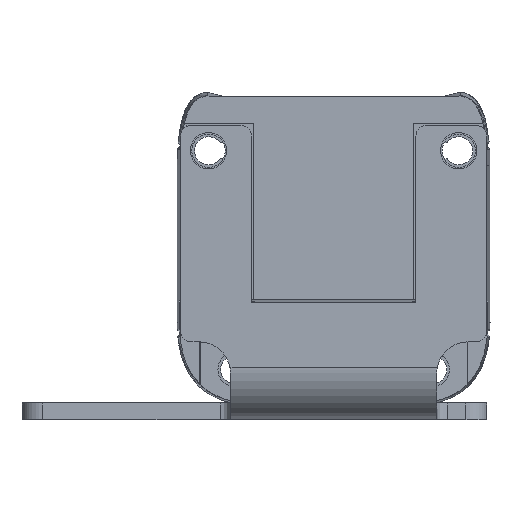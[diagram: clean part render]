
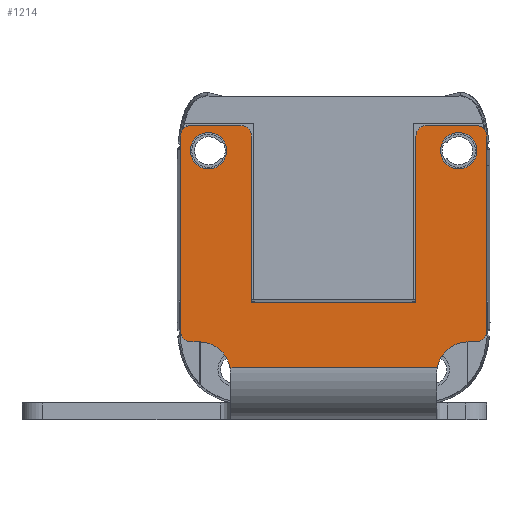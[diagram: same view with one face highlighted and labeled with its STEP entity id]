
A CAD part, front view. The second image highlights one B-rep face of the part: STEP entity #1214.
In plain terms, the highlighted planar face has unit normal (0, -1, 0).
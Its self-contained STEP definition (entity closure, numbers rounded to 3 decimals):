
#1214=ADVANCED_FACE('',(#1904,#1905,#1906),#1492,.T.);
#1492=PLANE('',#9447);
#1797=CIRCLE('',#9437,3.);
#1798=CIRCLE('',#9438,1.);
#1799=CIRCLE('',#9439,1.);
#1800=CIRCLE('',#9440,1.);
#1801=CIRCLE('',#9441,1.);
#1802=CIRCLE('',#9442,1.);
#1803=CIRCLE('',#9443,1.);
#1804=CIRCLE('',#9444,3.);
#1805=CIRCLE('',#9445,1.75);
#1806=CIRCLE('',#9446,1.75);
#1904=FACE_BOUND('',#2370,.T.);
#1905=FACE_BOUND('',#2371,.T.);
#1906=FACE_BOUND('',#2372,.T.);
#2370=EDGE_LOOP('',(#4747,#4748,#4749,#4750,#4751,#4752,#4753,#4754,#4755,
#4756,#4757,#4758,#4759,#4760,#4761,#4762,#4763,#4764));
#2371=EDGE_LOOP('',(#4765));
#2372=EDGE_LOOP('',(#4766));
#4747=ORIENTED_EDGE('',*,*,#6984,.T.);
#4748=ORIENTED_EDGE('',*,*,#6985,.F.);
#4749=ORIENTED_EDGE('',*,*,#6986,.T.);
#4750=ORIENTED_EDGE('',*,*,#6987,.T.);
#4751=ORIENTED_EDGE('',*,*,#6988,.T.);
#4752=ORIENTED_EDGE('',*,*,#6989,.T.);
#4753=ORIENTED_EDGE('',*,*,#6990,.T.);
#4754=ORIENTED_EDGE('',*,*,#6991,.F.);
#4755=ORIENTED_EDGE('',*,*,#6992,.F.);
#4756=ORIENTED_EDGE('',*,*,#6993,.T.);
#4757=ORIENTED_EDGE('',*,*,#6994,.T.);
#4758=ORIENTED_EDGE('',*,*,#6995,.F.);
#4759=ORIENTED_EDGE('',*,*,#6996,.T.);
#4760=ORIENTED_EDGE('',*,*,#6997,.F.);
#4761=ORIENTED_EDGE('',*,*,#6998,.T.);
#4762=ORIENTED_EDGE('',*,*,#6999,.T.);
#4763=ORIENTED_EDGE('',*,*,#7000,.T.);
#4764=ORIENTED_EDGE('',*,*,#7001,.T.);
#4765=ORIENTED_EDGE('',*,*,#7002,.F.);
#4766=ORIENTED_EDGE('',*,*,#7003,.T.);
#5758=VERTEX_POINT('',#15421);
#5759=VERTEX_POINT('',#15422);
#5760=VERTEX_POINT('',#15424);
#5761=VERTEX_POINT('',#15426);
#5762=VERTEX_POINT('',#15428);
#5763=VERTEX_POINT('',#15430);
#5764=VERTEX_POINT('',#15432);
#5765=VERTEX_POINT('',#15434);
#5766=VERTEX_POINT('',#15436);
#5767=VERTEX_POINT('',#15438);
#5768=VERTEX_POINT('',#15440);
#5769=VERTEX_POINT('',#15442);
#5770=VERTEX_POINT('',#15444);
#5771=VERTEX_POINT('',#15446);
#5772=VERTEX_POINT('',#15448);
#5773=VERTEX_POINT('',#15450);
#5774=VERTEX_POINT('',#15452);
#5775=VERTEX_POINT('',#15454);
#5776=VERTEX_POINT('',#15457);
#5777=VERTEX_POINT('',#15459);
#6984=EDGE_CURVE('',#5758,#5759,#1797,.T.);
#6985=EDGE_CURVE('',#5760,#5759,#7863,.T.);
#6986=EDGE_CURVE('',#5760,#5761,#1798,.T.);
#6987=EDGE_CURVE('',#5761,#5762,#7864,.T.);
#6988=EDGE_CURVE('',#5762,#5763,#1799,.T.);
#6989=EDGE_CURVE('',#5763,#5764,#7865,.T.);
#6990=EDGE_CURVE('',#5764,#5765,#1800,.T.);
#6991=EDGE_CURVE('',#5766,#5765,#7866,.T.);
#6992=EDGE_CURVE('',#5767,#5766,#7867,.T.);
#6993=EDGE_CURVE('',#5767,#5768,#7868,.T.);
#6994=EDGE_CURVE('',#5768,#5769,#1801,.T.);
#6995=EDGE_CURVE('',#5770,#5769,#7869,.T.);
#6996=EDGE_CURVE('',#5770,#5771,#1802,.T.);
#6997=EDGE_CURVE('',#5772,#5771,#7870,.T.);
#6998=EDGE_CURVE('',#5772,#5773,#1803,.T.);
#6999=EDGE_CURVE('',#5773,#5774,#7871,.T.);
#7000=EDGE_CURVE('',#5774,#5775,#1804,.T.);
#7001=EDGE_CURVE('',#5775,#5758,#7872,.T.);
#7002=EDGE_CURVE('',#5776,#5776,#1805,.T.);
#7003=EDGE_CURVE('',#5777,#5777,#1806,.T.);
#7863=LINE('',#15423,#8719);
#7864=LINE('',#15427,#8720);
#7865=LINE('',#15431,#8721);
#7866=LINE('',#15435,#8722);
#7867=LINE('',#15437,#8723);
#7868=LINE('',#15439,#8724);
#7869=LINE('',#15443,#8725);
#7870=LINE('',#15447,#8726);
#7871=LINE('',#15451,#8727);
#7872=LINE('',#15455,#8728);
#8719=VECTOR('',#11638,1.);
#8720=VECTOR('',#11641,1.);
#8721=VECTOR('',#11644,1.);
#8722=VECTOR('',#11647,1.);
#8723=VECTOR('',#11648,1.);
#8724=VECTOR('',#11649,1.);
#8725=VECTOR('',#11652,1.);
#8726=VECTOR('',#11655,1.);
#8727=VECTOR('',#11658,1.);
#8728=VECTOR('',#11661,1.);
#9437=AXIS2_PLACEMENT_3D('',#15420,#11636,#11637);
#9438=AXIS2_PLACEMENT_3D('',#15425,#11639,#11640);
#9439=AXIS2_PLACEMENT_3D('',#15429,#11642,#11643);
#9440=AXIS2_PLACEMENT_3D('',#15433,#11645,#11646);
#9441=AXIS2_PLACEMENT_3D('',#15441,#11650,#11651);
#9442=AXIS2_PLACEMENT_3D('',#15445,#11653,#11654);
#9443=AXIS2_PLACEMENT_3D('',#15449,#11656,#11657);
#9444=AXIS2_PLACEMENT_3D('',#15453,#11659,#11660);
#9445=AXIS2_PLACEMENT_3D('',#15456,#11662,#11663);
#9446=AXIS2_PLACEMENT_3D('',#15458,#11664,#11665);
#9447=AXIS2_PLACEMENT_3D('',#15460,#11666,#11667);
#11636=DIRECTION('',(0.,1.,0.));
#11637=DIRECTION('',(0.,0.,1.));
#11638=DIRECTION('',(-1.,0.,0.));
#11639=DIRECTION('',(0.,-1.,0.));
#11640=DIRECTION('',(0.,0.,1.));
#11641=DIRECTION('',(0.,0.,1.));
#11642=DIRECTION('',(0.,-1.,0.));
#11643=DIRECTION('',(0.,0.,-1.));
#11644=DIRECTION('',(-1.,0.,0.));
#11645=DIRECTION('',(0.,-1.,0.));
#11646=DIRECTION('',(0.,0.,-1.));
#11647=DIRECTION('',(0.,0.,1.));
#11648=DIRECTION('',(1.,0.,0.));
#11649=DIRECTION('',(0.,0.,1.));
#11650=DIRECTION('',(0.,-1.,0.));
#11651=DIRECTION('',(0.,0.,1.));
#11652=DIRECTION('',(1.,0.,0.));
#11653=DIRECTION('',(0.,-1.,0.));
#11654=DIRECTION('',(0.,0.,1.));
#11655=DIRECTION('',(0.,0.,1.));
#11656=DIRECTION('',(0.,-1.,0.));
#11657=DIRECTION('',(0.,0.,1.));
#11658=DIRECTION('',(1.,0.,0.));
#11659=DIRECTION('',(0.,1.,0.));
#11660=DIRECTION('',(0.,0.,1.));
#11661=DIRECTION('',(1.,0.,0.));
#11662=DIRECTION('',(0.,-1.,0.));
#11663=DIRECTION('',(0.,0.,1.));
#11664=DIRECTION('',(0.,1.,0.));
#11665=DIRECTION('',(0.,0.,-1.));
#11666=DIRECTION('',(0.,-1.,0.));
#11667=DIRECTION('',(-1.,0.,0.));
#15420=CARTESIAN_POINT('',(12.89,65.8,-139.533));
#15421=CARTESIAN_POINT('',(9.939,65.8,-138.994));
#15422=CARTESIAN_POINT('',(12.89,65.8,-136.533));
#15423=CARTESIAN_POINT('',(-7.89,65.8,-136.533));
#15424=CARTESIAN_POINT('',(13.69,65.8,-136.533));
#15425=CARTESIAN_POINT('',(13.69,65.8,-135.533));
#15426=CARTESIAN_POINT('',(14.69,65.8,-135.533));
#15427=CARTESIAN_POINT('',(14.69,65.8,-115.6));
#15428=CARTESIAN_POINT('',(14.69,65.8,-116.8));
#15429=CARTESIAN_POINT('',(13.69,65.8,-116.8));
#15430=CARTESIAN_POINT('',(13.69,65.8,-115.8));
#15431=CARTESIAN_POINT('',(7.89,65.8,-115.8));
#15432=CARTESIAN_POINT('',(8.89,65.8,-115.8));
#15433=CARTESIAN_POINT('',(8.89,65.8,-116.8));
#15434=CARTESIAN_POINT('',(7.89,65.8,-116.8));
#15435=CARTESIAN_POINT('',(7.89,65.8,-115.6));
#15436=CARTESIAN_POINT('',(7.89,65.8,-132.733));
#15437=CARTESIAN_POINT('',(-9.89,65.8,-132.733));
#15438=CARTESIAN_POINT('',(-7.89,65.8,-132.733));
#15439=CARTESIAN_POINT('',(-7.89,65.8,-115.6));
#15440=CARTESIAN_POINT('',(-7.89,65.8,-116.8));
#15441=CARTESIAN_POINT('',(-8.89,65.8,-116.8));
#15442=CARTESIAN_POINT('',(-8.89,65.8,-115.8));
#15443=CARTESIAN_POINT('',(-7.89,65.8,-115.8));
#15444=CARTESIAN_POINT('',(-13.69,65.8,-115.8));
#15445=CARTESIAN_POINT('',(-13.69,65.8,-116.8));
#15446=CARTESIAN_POINT('',(-14.69,65.8,-116.8));
#15447=CARTESIAN_POINT('',(-14.69,65.8,-115.6));
#15448=CARTESIAN_POINT('',(-14.69,65.8,-135.533));
#15449=CARTESIAN_POINT('',(-13.69,65.8,-135.533));
#15450=CARTESIAN_POINT('',(-13.69,65.8,-136.533));
#15451=CARTESIAN_POINT('',(-7.89,65.8,-136.533));
#15452=CARTESIAN_POINT('',(-12.89,65.8,-136.533));
#15453=CARTESIAN_POINT('',(-12.89,65.8,-139.533));
#15454=CARTESIAN_POINT('',(-9.939,65.8,-138.994));
#15455=CARTESIAN_POINT('',(-9.89,65.8,-138.994));
#15456=CARTESIAN_POINT('',(-12.,65.8,-118.2));
#15457=CARTESIAN_POINT('',(-12.,65.8,-116.45));
#15458=CARTESIAN_POINT('',(12.,65.8,-118.2));
#15459=CARTESIAN_POINT('',(12.,65.8,-119.95));
#15460=CARTESIAN_POINT('',(-9.89,65.8,-142.394));
